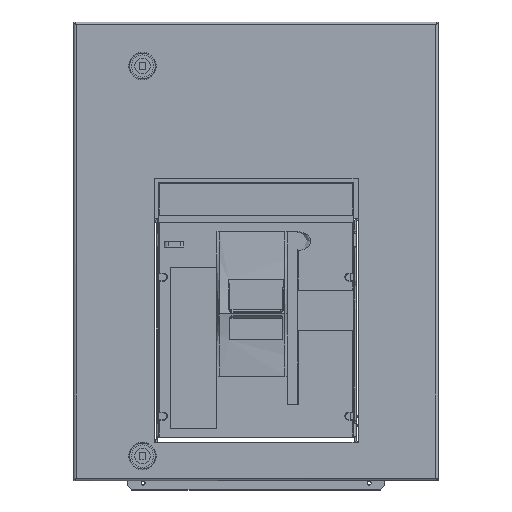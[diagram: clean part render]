
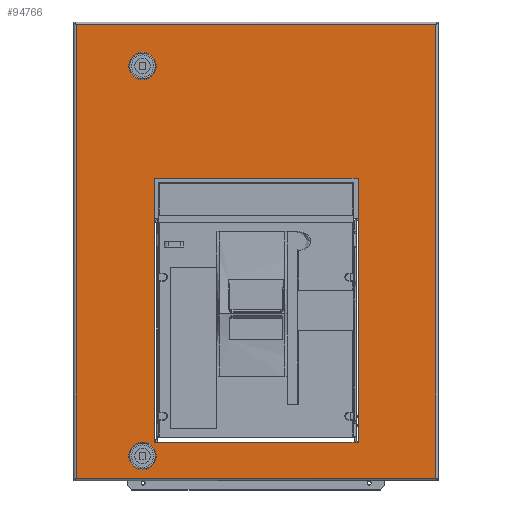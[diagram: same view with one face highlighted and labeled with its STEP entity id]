
A CAD part, top view. The second image highlights one B-rep face of the part: STEP entity #94766.
In plain terms, the highlighted planar face has unit normal (0, 0, 1).
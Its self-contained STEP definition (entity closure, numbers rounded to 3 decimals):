
#85776=CARTESIAN_POINT(' ',(-194.3,451.7,26.9));
#85777=VERTEX_POINT(' ',#85776);
#87281=CARTESIAN_POINT(' ',(194.1,451.7,26.9));
#87282=VERTEX_POINT(' ',#87281);
#88206=CARTESIAN_POINT(' ',(-110.,1.,26.9));
#88211=DIRECTION(' ',(1.,0.,0.));
#88216=VECTOR(' ',#88211,1.);
#88221=LINE('',#88206,#88216);
#88226=CARTESIAN_POINT(' ',(-110.,1.,26.9));
#88227=VERTEX_POINT(' ',#88226);
#88231=CARTESIAN_POINT(' ',(110.,1.,26.9));
#88232=VERTEX_POINT(' ',#88231);
#88236=EDGE_CURVE(' ',#88227,#88232,#88221,.T.);
#88351=CARTESIAN_POINT(' ',(110.,1.,26.9));
#88356=DIRECTION(' ',(0.,1.,0.));
#88361=VECTOR(' ',#88356,1.);
#88366=LINE('',#88351,#88361);
#88371=CARTESIAN_POINT(' ',(110.,286.,26.9));
#88372=VERTEX_POINT(' ',#88371);
#88376=EDGE_CURVE(' ',#88232,#88372,#88366,.T.);
#88466=CARTESIAN_POINT(' ',(110.,286.,26.9));
#88471=DIRECTION(' ',(-1.,0.,0.));
#88476=VECTOR(' ',#88471,1.);
#88481=LINE('',#88466,#88476);
#88486=CARTESIAN_POINT(' ',(-110.,286.,26.9));
#88487=VERTEX_POINT(' ',#88486);
#88491=EDGE_CURVE(' ',#88372,#88487,#88481,.T.);
#88581=CARTESIAN_POINT(' ',(-110.,286.,26.9));
#88586=DIRECTION(' ',(0.,-1.,0.));
#88591=VECTOR(' ',#88586,1.);
#88596=LINE('',#88581,#88591);
#88601=EDGE_CURVE(' ',#88487,#88227,#88596,.T.);
#88666=CARTESIAN_POINT(' ',(194.1,451.7,26.9));
#88671=DIRECTION(' ',(-1.,0.,0.));
#88676=VECTOR(' ',#88671,1.);
#88681=LINE('',#88666,#88676);
#88686=EDGE_CURVE(' ',#87282,#85777,#88681,.T.);
#92591=CARTESIAN_POINT(' ',(194.1,-37.7,26.9));
#92592=VERTEX_POINT(' ',#92591);
#94176=CARTESIAN_POINT(' ',(-194.3,-37.7,26.9));
#94177=VERTEX_POINT(' ',#94176);
#94606=DIRECTION(' ',(-0.,-0.,1.));
#94611=CARTESIAN_POINT(' ',(194.1,-37.7,26.9));
#94616=DIRECTION(' ',(0.,1.,0.));
#94621=AXIS2_PLACEMENT_3D(' ',#94611,#94606,#94616);
#94626=PLANE('NONE',#94621);
#94631=CARTESIAN_POINT(' ',(-194.3,-37.7,26.9));
#94636=DIRECTION(' ',(1.,0.,0.));
#94641=VECTOR(' ',#94636,1.);
#94646=LINE('',#94631,#94641);
#94651=EDGE_CURVE(' ',#94177,#92592,#94646,.T.);
#94656=ORIENTED_EDGE(' ',*,*,#94651,.T.);
#94661=CARTESIAN_POINT(' ',(194.1,451.7,26.9));
#94666=DIRECTION(' ',(0.,-1.,0.));
#94671=VECTOR(' ',#94666,1.);
#94676=LINE('',#94661,#94671);
#94681=EDGE_CURVE(' ',#87282,#92592,#94676,.T.);
#94686=ORIENTED_EDGE(' ',*,*,#94681,.F.);
#94691=ORIENTED_EDGE(' ',*,*,#88686,.T.);
#94696=CARTESIAN_POINT(' ',(-194.3,451.7,26.9));
#94701=DIRECTION(' ',(0.,-1.,0.));
#94706=VECTOR(' ',#94701,1.);
#94711=LINE('',#94696,#94706);
#94716=EDGE_CURVE(' ',#85777,#94177,#94711,.T.);
#94721=ORIENTED_EDGE(' ',*,*,#94716,.T.);
#94726=EDGE_LOOP(' ',(#94656,#94686,#94691,#94721));
#94731=FACE_OUTER_BOUND(' ',#94726,.T.);
#94736=ORIENTED_EDGE(' ',*,*,#88376,.F.);
#94741=ORIENTED_EDGE(' ',*,*,#88236,.F.);
#94746=ORIENTED_EDGE(' ',*,*,#88601,.F.);
#94751=ORIENTED_EDGE(' ',*,*,#88491,.F.);
#94756=EDGE_LOOP(' ',(#94736,#94741,#94746,#94751));
#94761=FACE_BOUND(' ',#94756,.T.);
#94766=ADVANCED_FACE('NONE',(#94731,#94761),#94626,.T.);
